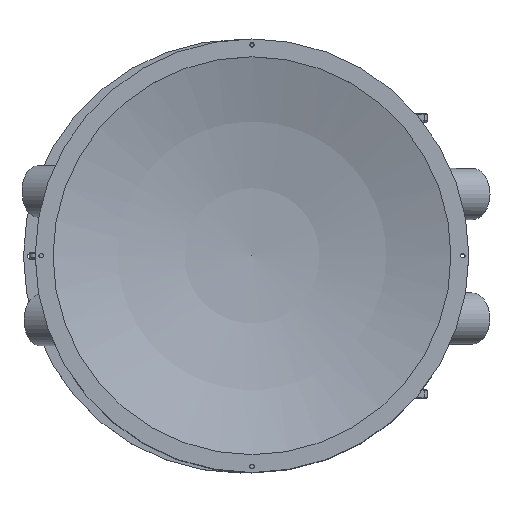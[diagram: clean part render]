
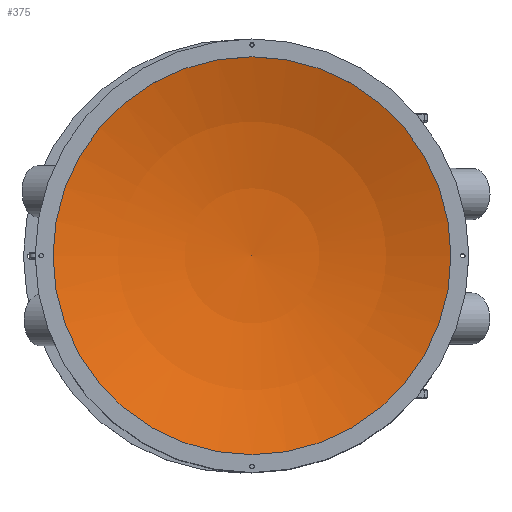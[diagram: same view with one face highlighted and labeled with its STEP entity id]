
A CAD part, top view. The second image highlights one B-rep face of the part: STEP entity #375.
In plain terms, the highlighted spherical face has radius 2532.61 mm.
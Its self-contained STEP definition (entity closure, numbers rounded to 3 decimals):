
#375 = ADVANCED_FACE( '', ( #923 ), #924, .F. );
#923 = FACE_OUTER_BOUND( '', #1709, .T. );
#924 = SPHERICAL_SURFACE( '', #1710, 2532.606 );
#1709 = EDGE_LOOP( '', ( #2695 ) );
#1710 = AXIS2_PLACEMENT_3D( '', #2696, #2697, #2698 );
#2695 = ORIENTED_EDGE( '', *, *, #3758, .F. );
#2696 = CARTESIAN_POINT( '', ( 0., 0., -2485.706 ) );
#2697 = DIRECTION( '', ( 0., 0., 1. ) );
#2698 = DIRECTION( '', ( 1., 0., 0. ) );
#3758 = EDGE_CURVE( '', #4341, #4341, #4342, .T. );
#4341 = VERTEX_POINT( '', #5179 );
#4342 = CIRCLE( '', #5180, 850. );
#5179 = CARTESIAN_POINT( '', ( 850., 0., -100. ) );
#5180 = AXIS2_PLACEMENT_3D( '', #5971, #5972, #5973 );
#5971 = CARTESIAN_POINT( '', ( 0., 0., -100. ) );
#5972 = DIRECTION( '', ( 0., 0., 1. ) );
#5973 = DIRECTION( '', ( 1., 0., 0. ) );
